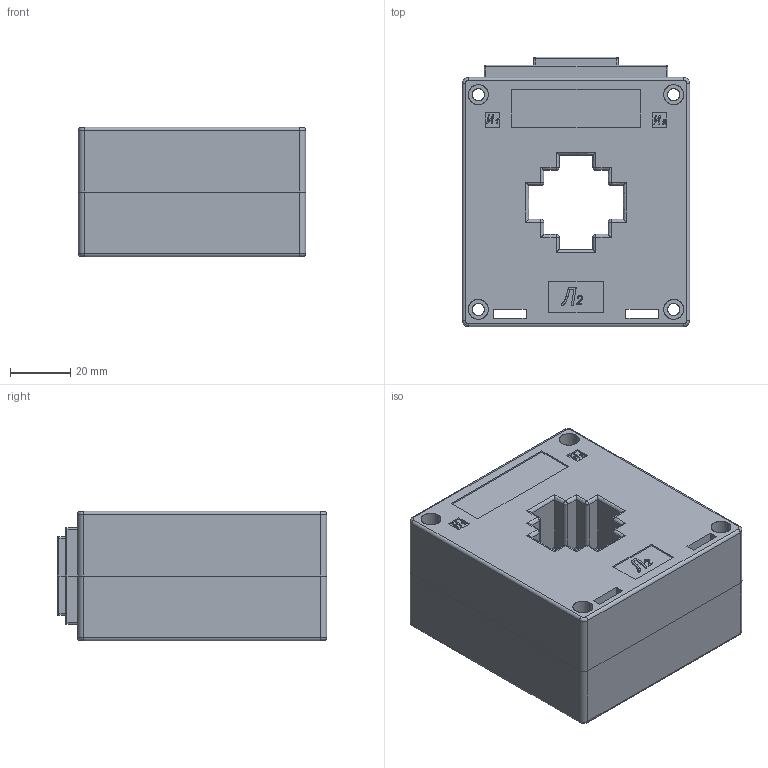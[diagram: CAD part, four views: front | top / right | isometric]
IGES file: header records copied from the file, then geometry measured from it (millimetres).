
Start section: SolidWorks IGES file using analytic representation for surfaces
Global section: file name: E:\xj\誑覜ん蜊\30T-2\30T_ASM_1.IGS; native system: SolidWorks 2012; preprocessor: SolidWorks 2012; author: Administrator; date: 150604.164224; units: millimetre
Bounding box: 75.2 x 89.1 x 42.8 mm (x, y, z)
Surface area: 67018.6 mm2 (no closed solid volume)
Topology: 0 solids, 0 shells, 801 faces, 8200 edges, 8176 vertices
Faces by surface type: bspline 605, revolution 196
